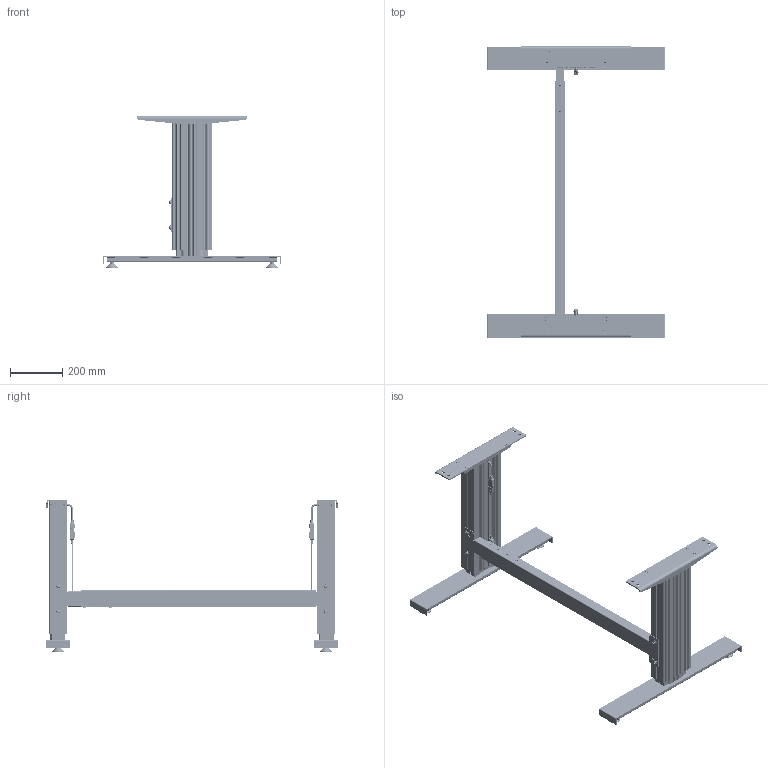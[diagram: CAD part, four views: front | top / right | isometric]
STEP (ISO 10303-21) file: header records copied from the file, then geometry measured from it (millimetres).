
FILE_DESCRIPTION(/* description */ ('Unknown'),/* implementation_level */ '2;1');
FILE_NAME(/* name */ 'Untergestell SM-2 1430 970-1620 XX XX_01-Eingefahren',/* time_stamp */ '2022-01-26T13:34:49+01:00',/* author */ ('Unknown'),/* organization */ ('Unknown'),/* preprocessor_version */ 'ST-DEVELOPER v18.1',/* originating_system */ 'Solid Edge',/* authorisation */ 'Unknown');
FILE_SCHEMA (('AUTOMOTIVE_DESIGN {1 0 10303 214 3 1 1}'));
Products named in the file (38): Untergestell SM-2 1430 970-1620 XX XX; 902.00003_oa_0; 126.00138; 119.00315; 119.00314; 142.00166; 124.00201_oa_1; 142.00241; 110.00104_oa_2; 115.00200_oa_3; 124.00151; Kabel Motor Sx; 142.00343; 902.00003_oa_4; 124.00201_oa_5; 110.00104_oa_6; 115.00200_oa_7; 127.00635; 060339~2; 060340~3; Sechskantmutter M6 DIN 934; Scheibe Ø6,4 DIN 125; Halbrundkopfschraube mit Innensechskant M8x12 ISO 7380-1; Scheibe Ø8,4 DIN 125; Nutenstein M8_montiert; Halbrundkopfschraube mit Innensechskant und Bund M6x16 ISO 7380-2; 127.00545; 127.00548; 127.00566; 127.00567; 127.00548_461_469_Kehlnaht 1_oa_8; 113.00006; 113.00006-ohne Mutter; Mutter M10; 115.00165; 127.00223; 142.00279; 142.00068
Assembly tree (82 placements, depth 4):
  Untergestell SM-2 1430 970-1620 XX XX
    902.00003_oa_0
      126.00138
      119.00315
      119.00314
      142.00166  x4
      124.00201_oa_1
      142.00241  x2
      110.00104_oa_2
      115.00200_oa_3
      124.00151
      Kabel Motor Sx
      142.00343  x2
    902.00003_oa_4
      126.00138
      119.00315
      119.00314
      142.00166  x4
      124.00201_oa_5
      142.00241  x2
      110.00104_oa_6
      115.00200_oa_7
      124.00151
      Kabel Motor Sx
      142.00343  x2
    127.00635
      060339~2
      060340~3
      Sechskantmutter M6 DIN 934  x4
      Scheibe Ø6,4 DIN 125  x4
      Halbrundkopfschraube mit Innensechskant M8x12 ISO 7380-1  x4
      Scheibe Ø8,4 DIN 125  x4
      Nutenstein M8_montiert  x4
      Halbrundkopfschraube mit Innensechskant und Bund M6x16 ISO 7380-2  x4
    127.00545  x2
      127.00548
        127.00566
        127.00567
        127.00548_461_469_Kehlnaht 1_oa_8
      113.00006
        113.00006-ohne Mutter
        Mutter M10
    115.00165  x2
      127.00223
      142.00279
      142.00068
Bounding box: 680 x 1110 x 580 mm (x, y, z)
Volume: 6649604.8 mm3; surface area: 3491158.7 mm2
Topology: 106 solids, 106 shells, 8282 faces, 22827 edges, 15025 vertices
Faces by surface type: plane 4642, cylinder 2872, torus 290, cone 244, bspline 218, sphere 16
Full cylindrical faces by diameter (mm): 1.5 x12, 1.82 x12, 2.459 x2, 2.7 x12, 3.242 x4, 3.4 x2, 4 x8, 5 x10, 5.5 x8, 6 x14, 6.4 x4, 6.647 x12, 7 x20, 8 x16, 8.376 x10, 8.5 x28, 8.7 x8, 9 x8, 9.5 x4, 10 x4, 12 x4, 13.6 x4, 14 x4, 15 x4, 16.8 x4, 19 x4, 25 x12, 29 x4, 30 x4, 35 x4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
Entity records: 146329 total; most frequent: CARTESIAN_POINT 26865, ORIENTED_EDGE 20926, DIRECTION 20512, EDGE_CURVE 10463, VERTEX_POINT 6998, AXIS2_PLACEMENT_3D 6914, LINE 6684, VECTOR 6684
